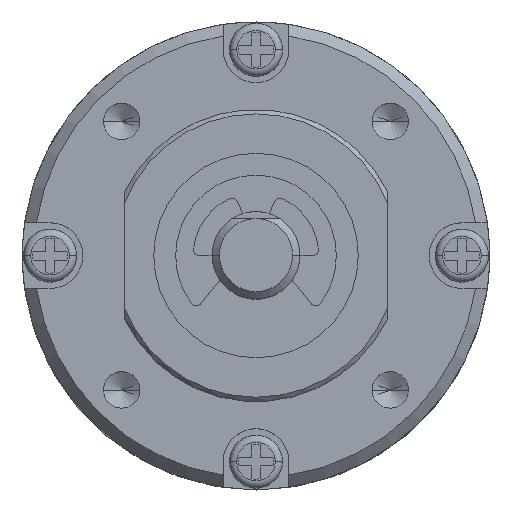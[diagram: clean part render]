
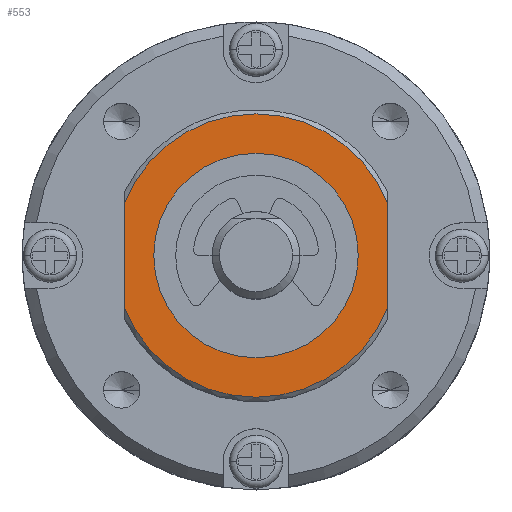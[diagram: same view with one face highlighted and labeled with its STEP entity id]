
A CAD part, top view. The second image highlights one B-rep face of the part: STEP entity #553.
In plain terms, the highlighted planar face has unit normal (0, 0, 1).
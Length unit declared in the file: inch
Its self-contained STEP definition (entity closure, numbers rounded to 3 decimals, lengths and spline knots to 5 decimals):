
#553=ADVANCED_FACE('NONE',(#1327,#1328),#1329,.F.);
#1327=FACE_OUTER_BOUND('',#2382,.T.);
#1328=FACE_BOUND('',#2383,.T.);
#1329=PLANE('',#2384);
#2382=EDGE_LOOP('',(#3885,#3886,#3887,#3888));
#2383=EDGE_LOOP('',(#3889,#3890));
#2384=AXIS2_PLACEMENT_3D('',#3891,#3892,#3893);
#3885=ORIENTED_EDGE('',*,*,#6475,.F.);
#3886=ORIENTED_EDGE('',*,*,#6476,.F.);
#3887=ORIENTED_EDGE('',*,*,#6477,.F.);
#3888=ORIENTED_EDGE('',*,*,#6478,.F.);
#3889=ORIENTED_EDGE('',*,*,#6135,.T.);
#3890=ORIENTED_EDGE('',*,*,#6479,.T.);
#3891=CARTESIAN_POINT('',(-0.34277,-0.4692,0.01772));
#3892=DIRECTION('',(0.0,0.0,-1.0));
#3893=DIRECTION('',(0.0,-1.0,0.0));
#6135=EDGE_CURVE('NONE',#7352,#7350,#7353,.T.);
#6475=EDGE_CURVE('NONE',#7918,#7919,#7920,.T.);
#6476=EDGE_CURVE('NONE',#7921,#7918,#7922,.T.);
#6477=EDGE_CURVE('NONE',#7923,#7921,#7924,.T.);
#6478=EDGE_CURVE('NONE',#7919,#7923,#7925,.T.);
#6479=EDGE_CURVE('NONE',#7350,#7352,#7926,.T.);
#7350=VERTEX_POINT('NONE',#9064);
#7352=VERTEX_POINT('NONE',#9067);
#7353=CIRCLE('',#9068,0.11811);
#7918=VERTEX_POINT('NONE',#9965);
#7919=VERTEX_POINT('NONE',#9966);
#7920=LINE('',#9967,#9968);
#7921=VERTEX_POINT('NONE',#9969);
#7922=CIRCLE('',#9970,0.38189);
#7923=VERTEX_POINT('NONE',#9971);
#7924=LINE('',#9972,#9973);
#7925=CIRCLE('',#9974,0.38189);
#7926=CIRCLE('',#9975,0.11811);
#9064=CARTESIAN_POINT('',(-0.22466,-0.08731,0.01772));
#9067=CARTESIAN_POINT('',(-0.46088,-0.08731,0.01772));
#9068=AXIS2_PLACEMENT_3D('',#11337,#11338,#11339);
#9965=CARTESIAN_POINT('',(-0.6971,-0.22975,0.01772));
#9966=CARTESIAN_POINT('',(-0.6971,0.05513,0.01772));
#9967=CARTESIAN_POINT('',(-0.6971,-0.4692,0.01772));
#9968=VECTOR('',#11841,39.37008);
#9969=CARTESIAN_POINT('',(0.01156,-0.22975,0.01772));
#9970=AXIS2_PLACEMENT_3D('',#11842,#11843,#11844);
#9971=CARTESIAN_POINT('',(0.01156,0.05513,0.01772));
#9972=CARTESIAN_POINT('',(0.01156,-0.4692,0.01772));
#9973=VECTOR('',#11845,39.37008);
#9974=AXIS2_PLACEMENT_3D('',#11846,#11847,#11848);
#9975=AXIS2_PLACEMENT_3D('',#11849,#11850,#11851);
#11337=CARTESIAN_POINT('',(-0.34277,-0.08731,0.01772));
#11338=DIRECTION('',(0.0,0.0,-1.0));
#11339=DIRECTION('',(-1.0,0.0,0.0));
#11841=DIRECTION('',(0.0,1.0,0.0));
#11842=CARTESIAN_POINT('',(-0.34277,-0.08731,0.01772));
#11843=DIRECTION('',(0.0,0.0,-1.0));
#11844=DIRECTION('',(-1.0,0.0,0.0));
#11845=DIRECTION('',(0.,-1.0,0.0));
#11846=CARTESIAN_POINT('',(-0.34277,-0.08731,0.01772));
#11847=DIRECTION('',(0.0,0.0,-1.0));
#11848=DIRECTION('',(-1.0,0.0,0.0));
#11849=CARTESIAN_POINT('',(-0.34277,-0.08731,0.01772));
#11850=DIRECTION('',(0.0,0.0,-1.0));
#11851=DIRECTION('',(-1.0,0.0,0.0));
